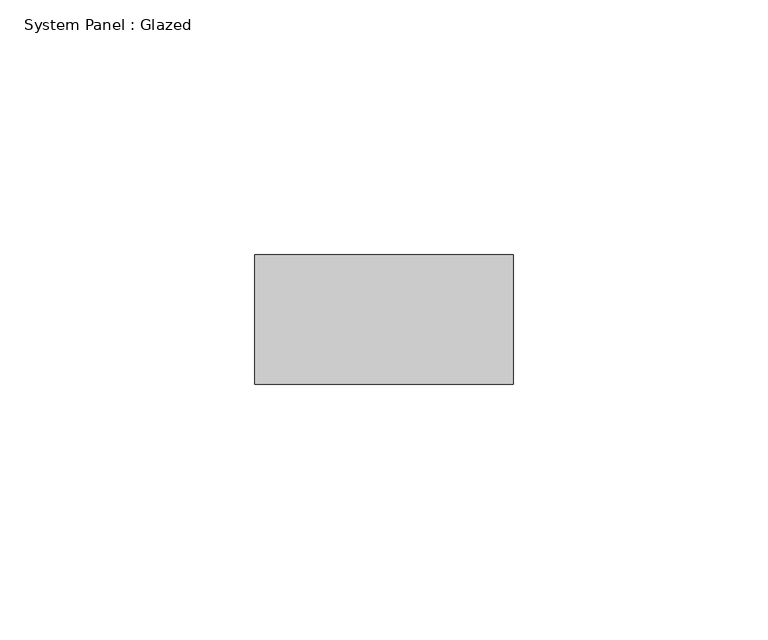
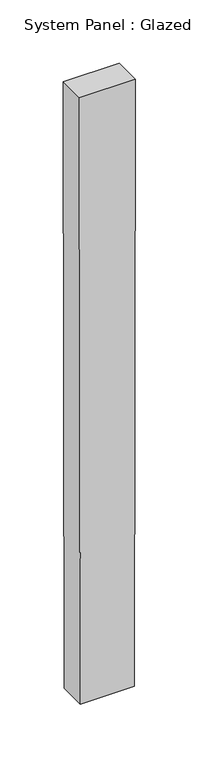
"""IFC4 building model written with IfcOpenShell, lengths in millimetres: plate geometry, System Panel : Glazed."""

from ifc_helpers import new_model, si_unit, frame, origin, place, context, project, spatial, polyline, outline, extrude, source, transform, mapped, element, save


def system_panel_glazed_3a502b53(model_context):
    return source(origin(), model_context, "Body", "SweptSolid", [
        extrude(outline(polyline([(0.0, -24.726298), (0.0, 24.726298), (584.1996449, 25.3569011), (584.1996449, -25.3569011), (0.0, -24.726298)])), frame((0.0, -44.45, 0.0), z_axis=(0.0, 1.0, 0.0), x_axis=(0.0, 0.0, 1.0)), (0.0, 0.0, 1.0), 25.4),
    ])


if __name__ == "__main__":
    model = new_model("IFC4")
    model_context = context("Model", 3, world=origin())
    ifc_project = project(units=[si_unit("LENGTHUNIT", "METRE", prefix="MILLI")], contexts=[model_context])
    site = spatial("IfcSite", under=ifc_project)
    building = spatial("IfcBuilding", under=site)
    placement = place(None, origin())
    system_panel_glazed_shape = system_panel_glazed_3a502b53(model_context)
    element("IfcPlate", 1, ObjectType="System Panel : Glazed", at=placement, inside=building, context=model_context, shape_type="MappedRepresentation", body=[
        mapped(system_panel_glazed_shape, transform((0.0, 0.0, 0.0), x_axis=(1.0, 0.0, 0.0), y_axis=(0.0, 1.0, 0.0), z_axis=(0.0, 0.0, 1.0))),
    ])
    save(model, "model.ifc")
